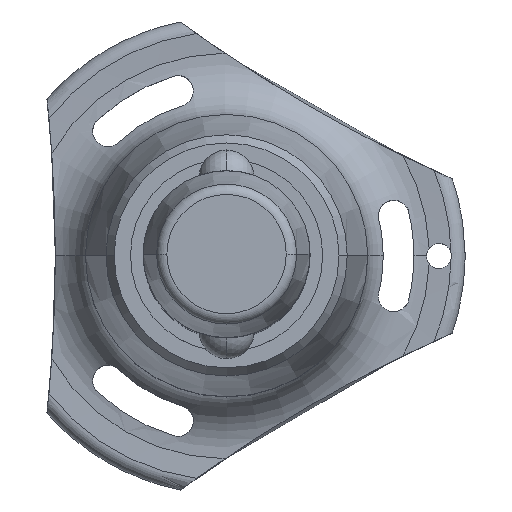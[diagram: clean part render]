
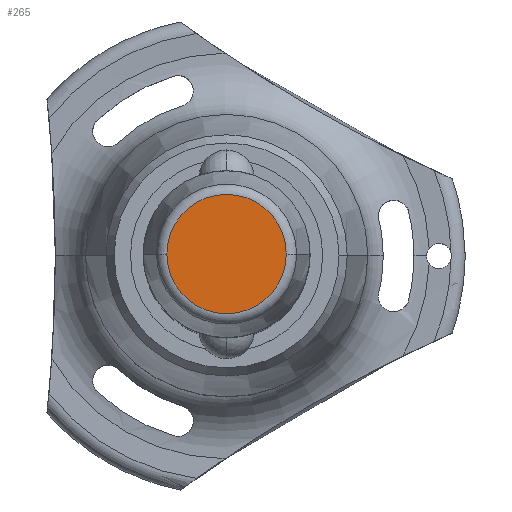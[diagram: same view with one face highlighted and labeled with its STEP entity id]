
A CAD part, top view. The second image highlights one B-rep face of the part: STEP entity #265.
In plain terms, the highlighted planar face has unit normal (0, 0, 1).
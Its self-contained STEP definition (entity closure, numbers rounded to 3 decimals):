
#265 = ADVANCED_FACE ( 'NONE', ( #300 ), #1869, .T. ) ;
#300 = FACE_OUTER_BOUND ( 'NONE', #427, .T. ) ;
#427 = EDGE_LOOP ( 'NONE', ( #1603, #1444 ) ) ;
#471 = CIRCLE ( 'NONE', #1138, 7.144 ) ;
#658 = DIRECTION ( 'NONE',  ( 0., 0., 1. ) ) ;
#753 = VERTEX_POINT ( 'NONE', #879 ) ;
#824 = DIRECTION ( 'NONE',  ( 1., 0., 0. ) ) ;
#879 = CARTESIAN_POINT ( 'NONE',  ( 7.144, 0., 20.5 ) ) ;
#1094 = CIRCLE ( 'NONE', #1280, 7.144 ) ;
#1137 = AXIS2_PLACEMENT_3D ( 'NONE', #2797, #1884, #2810 ) ;
#1138 = AXIS2_PLACEMENT_3D ( 'NONE', #1294, #2852, #824 ) ;
#1177 = EDGE_CURVE ( 'NONE', #753, #2008, #471, .T. ) ;
#1280 = AXIS2_PLACEMENT_3D ( 'NONE', #2703, #658, #2045 ) ;
#1294 = CARTESIAN_POINT ( 'NONE',  ( 0., 0., 20.5 ) ) ;
#1398 = EDGE_CURVE ( 'NONE', #2008, #753, #1094, .T. ) ;
#1444 = ORIENTED_EDGE ( 'NONE', *, *, #1398, .T. ) ;
#1603 = ORIENTED_EDGE ( 'NONE', *, *, #1177, .T. ) ;
#1869 = PLANE ( 'NONE',  #1137 ) ;
#1884 = DIRECTION ( 'NONE',  ( 0., 0., 1. ) ) ;
#2008 = VERTEX_POINT ( 'NONE', #2836 ) ;
#2045 = DIRECTION ( 'NONE',  ( 1., 0., 0. ) ) ;
#2703 = CARTESIAN_POINT ( 'NONE',  ( 0., 0., 20.5 ) ) ;
#2797 = CARTESIAN_POINT ( 'NONE',  ( 0., 0., 20.5 ) ) ;
#2810 = DIRECTION ( 'NONE',  ( 1., 0., 0. ) ) ;
#2836 = CARTESIAN_POINT ( 'NONE',  ( -7.144, 0., 20.5 ) ) ;
#2852 = DIRECTION ( 'NONE',  ( 0., 0., 1. ) ) ;
